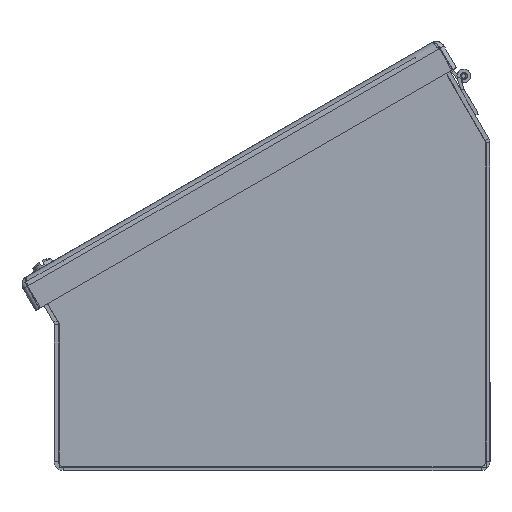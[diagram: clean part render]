
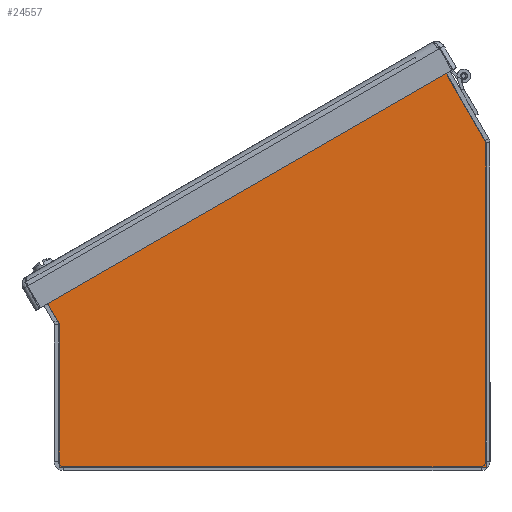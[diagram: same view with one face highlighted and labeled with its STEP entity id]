
A CAD part, left-side view. The second image highlights one B-rep face of the part: STEP entity #24557.
In plain terms, the highlighted planar face has unit normal (-1, 0, 0).
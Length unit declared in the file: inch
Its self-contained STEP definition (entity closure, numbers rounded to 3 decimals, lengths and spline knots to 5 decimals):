
#3470 = AXIS2_PLACEMENT_3D ( 'NONE', #37435, #37445, #37446 ) ;
#15838 = CARTESIAN_POINT ( 'NONE',  ( 0., 1.34979, -4.2039 ) ) ;
#15839 = CARTESIAN_POINT ( 'NONE',  ( 0., 1.38679, -4.13981 ) ) ;
#15840 = CARTESIAN_POINT ( 'NONE',  ( 0., -4.31955, -0.93071 ) ) ;
#15841 = CARTESIAN_POINT ( 'NONE',  ( 0., -4.28255, -0.86662 ) ) ;
#15844 = CARTESIAN_POINT ( 'NONE',  ( 0., 1.9179, -4.5319 ) ) ;
#15848 = CARTESIAN_POINT ( 'NONE',  ( 0., -4.88369, -0.605 ) ) ;
#15856 = CARTESIAN_POINT ( 'NONE',  ( 0., -4.88369, -0.59583 ) ) ;
#15857 = CARTESIAN_POINT ( 'NONE',  ( 0., -4.53969, 0. ) ) ;
#15858 = CARTESIAN_POINT ( 'NONE',  ( 0., -4.53969, 2.453 ) ) ;
#15859 = CARTESIAN_POINT ( 'NONE',  ( 0., 2.75731, 2.453 ) ) ;
#15860 = CARTESIAN_POINT ( 'NONE',  ( 0., 2.75731, -3.078 ) ) ;
#17551 = CARTESIAN_POINT ( 'NONE',  ( 0., 1.34979, -4.2039 ) ) ;
#17558 = DIRECTION ( 'NONE',  ( 0., -0.5, -0.866 ) ) ;
#17576 = CARTESIAN_POINT ( 'NONE',  ( 0., -4.31955, -0.93071 ) ) ;
#17578 = DIRECTION ( 'NONE',  ( 0., 0.5, 0.866 ) ) ;
#17580 = CARTESIAN_POINT ( 'NONE',  ( 0., 1.9179, -4.5319 ) ) ;
#17582 = DIRECTION ( 'NONE',  ( 0., 0.866, -0.5 ) ) ;
#17598 = CARTESIAN_POINT ( 'NONE',  ( 0., 1.9179, -4.5319 ) ) ;
#17614 = DIRECTION ( 'NONE',  ( 0., 0.866, -0.5 ) ) ;
#17643 = CARTESIAN_POINT ( 'NONE',  ( 0., 1.38679, -4.13981 ) ) ;
#17645 = DIRECTION ( 'NONE',  ( 0., -0.866, 0.5 ) ) ;
#17647 = CARTESIAN_POINT ( 'NONE',  ( 0., -4.53969, 2.453 ) ) ;
#17652 = CARTESIAN_POINT ( 'NONE',  ( 0., -4.53969, 0. ) ) ;
#17654 = DIRECTION ( 'NONE',  ( 0., 0., -1. ) ) ;
#17656 = CARTESIAN_POINT ( 'NONE',  ( 0., -4.88369, -0.59583 ) ) ;
#17659 = DIRECTION ( 'NONE',  ( 0., -1., 0. ) ) ;
#17661 = CARTESIAN_POINT ( 'NONE',  ( 0., 1.9179, -4.5319 ) ) ;
#17663 = DIRECTION ( 'NONE',  ( 0., 0., -1. ) ) ;
#17666 = CARTESIAN_POINT ( 'NONE',  ( 0., -4.88369, -0.59583 ) ) ;
#17668 = DIRECTION ( 'NONE',  ( 0., -0.5, -0.866 ) ) ;
#17670 = CARTESIAN_POINT ( 'NONE',  ( 0., 2.75731, -3.078 ) ) ;
#17672 = DIRECTION ( 'NONE',  ( 0., 0., 1. ) ) ;
#17677 = DIRECTION ( 'NONE',  ( 0., 0.5, 0.866 ) ) ;
#17875 = FACE_OUTER_BOUND ( 'NONE', #52310, .T. ) ;
#20739 = LINE ( 'NONE', #17643, #20740 ) ;
#20740 = VECTOR ( 'NONE', #17645, 39.37008 ) ;
#20744 = LINE ( 'NONE', #17661, #20765 ) ;
#20746 = LINE ( 'NONE', #17652, #20748 ) ;
#20748 = VECTOR ( 'NONE', #17654, 39.37008 ) ;
#20750 = VECTOR ( 'NONE', #17659, 39.37008 ) ;
#20754 = VECTOR ( 'NONE', #17663, 39.37008 ) ;
#20758 = LINE ( 'NONE', #17666, #20760 ) ;
#20760 = VECTOR ( 'NONE', #17668, 39.37008 ) ;
#20762 = LINE ( 'NONE', #17670, #20763 ) ;
#20763 = VECTOR ( 'NONE', #17672, 39.37008 ) ;
#20765 = VECTOR ( 'NONE', #17677, 39.37008 ) ;
#21594 = LINE ( 'NONE', #17551, #21599 ) ;
#21599 = VECTOR ( 'NONE', #17558, 39.37008 ) ;
#21601 = VECTOR ( 'NONE', #17578, 39.37008 ) ;
#21608 = LINE ( 'NONE', #17576, #21601 ) ;
#21612 = LINE ( 'NONE', #17598, #21644 ) ;
#21618 = LINE ( 'NONE', #17580, #21619 ) ;
#21619 = VECTOR ( 'NONE', #17582, 39.37008 ) ;
#21644 = VECTOR ( 'NONE', #17614, 39.37008 ) ;
#21657 = LINE ( 'NONE', #17647, #20750 ) ;
#21661 = LINE ( 'NONE', #17656, #20754 ) ;
#24557 = ADVANCED_FACE ( 'NONE', ( #17875 ), #37440, .F. ) ;
#37435 = CARTESIAN_POINT ( 'NONE',  ( 0., -4.88766, -0.60271 ) ) ;
#37440 = PLANE ( 'NONE',  #3470 ) ;
#37445 = DIRECTION ( 'NONE',  ( 1., 0., 0. ) ) ;
#37446 = DIRECTION ( 'NONE',  ( 0., 0., -1. ) ) ;
#37680 = EDGE_CURVE ( 'NONE', #55639, #55638, #21594, .T. ) ;
#37684 = EDGE_CURVE ( 'NONE', #55640, #55641, #21608, .T. ) ;
#37685 = EDGE_CURVE ( 'NONE', #55638, #55644, #21618, .T. ) ;
#37692 = EDGE_CURVE ( 'NONE', #55648, #55640, #21612, .T. ) ;
#37699 = EDGE_CURVE ( 'NONE', #55639, #55641, #20739, .T. ) ;
#37701 = EDGE_CURVE ( 'NONE', #55658, #55657, #20746, .T. ) ;
#37702 = EDGE_CURVE ( 'NONE', #55659, #55658, #21657, .T. ) ;
#37703 = EDGE_CURVE ( 'NONE', #55656, #55648, #21661, .T. ) ;
#37704 = EDGE_CURVE ( 'NONE', #55657, #55656, #20758, .T. ) ;
#37705 = EDGE_CURVE ( 'NONE', #55660, #55659, #20762, .T. ) ;
#37706 = EDGE_CURVE ( 'NONE', #55644, #55660, #20744, .T. ) ;
#44651 = ORIENTED_EDGE ( 'NONE', *, *, #37680, .F. ) ;
#44652 = ORIENTED_EDGE ( 'NONE', *, *, #37699, .T. ) ;
#44653 = ORIENTED_EDGE ( 'NONE', *, *, #37684, .F. ) ;
#44654 = ORIENTED_EDGE ( 'NONE', *, *, #37692, .F. ) ;
#44655 = ORIENTED_EDGE ( 'NONE', *, *, #37703, .F. ) ;
#44656 = ORIENTED_EDGE ( 'NONE', *, *, #37704, .F. ) ;
#44657 = ORIENTED_EDGE ( 'NONE', *, *, #37701, .F. ) ;
#44658 = ORIENTED_EDGE ( 'NONE', *, *, #37702, .F. ) ;
#44659 = ORIENTED_EDGE ( 'NONE', *, *, #37705, .F. ) ;
#44660 = ORIENTED_EDGE ( 'NONE', *, *, #37706, .F. ) ;
#44661 = ORIENTED_EDGE ( 'NONE', *, *, #37685, .F. ) ;
#52310 = EDGE_LOOP ( 'NONE', ( #44651, #44652, #44653, #44654, #44655, #44656, #44657, #44658, #44659, #44660, #44661 ) ) ;
#55638 = VERTEX_POINT ( 'NONE', #15838 ) ;
#55639 = VERTEX_POINT ( 'NONE', #15839 ) ;
#55640 = VERTEX_POINT ( 'NONE', #15840 ) ;
#55641 = VERTEX_POINT ( 'NONE', #15841 ) ;
#55644 = VERTEX_POINT ( 'NONE', #15844 ) ;
#55648 = VERTEX_POINT ( 'NONE', #15848 ) ;
#55656 = VERTEX_POINT ( 'NONE', #15856 ) ;
#55657 = VERTEX_POINT ( 'NONE', #15857 ) ;
#55658 = VERTEX_POINT ( 'NONE', #15858 ) ;
#55659 = VERTEX_POINT ( 'NONE', #15859 ) ;
#55660 = VERTEX_POINT ( 'NONE', #15860 ) ;
